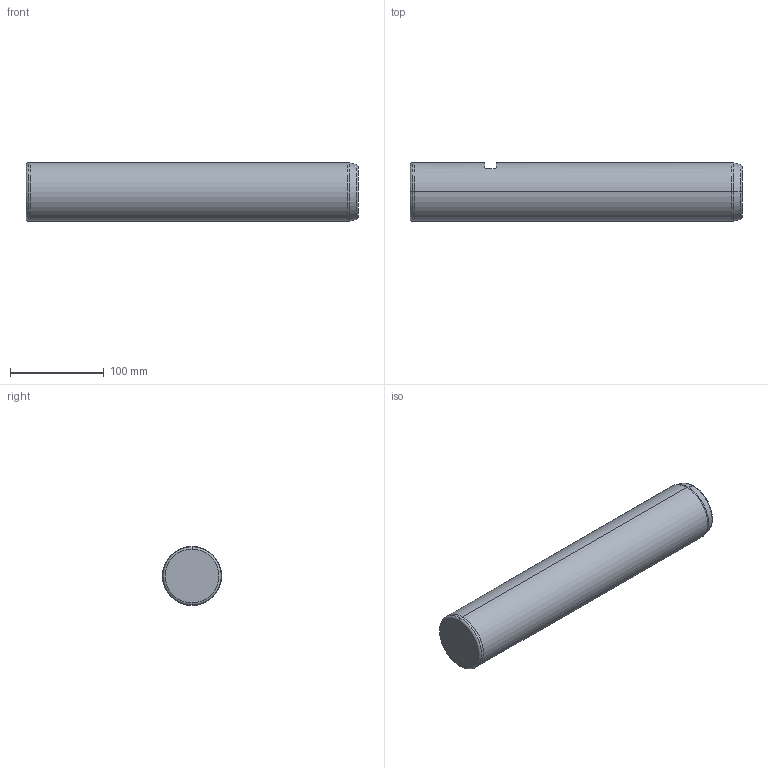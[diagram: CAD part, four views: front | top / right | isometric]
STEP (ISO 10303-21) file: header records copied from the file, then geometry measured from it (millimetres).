
FILE_DESCRIPTION (( 'STEP AP214' ), '1' );
FILE_NAME ('SP202-08-63-355.STEP', '2020-11-03T14:24:03', ( '' ), ( '' ), 'SwSTEP 2.0', 'SolidWorks 2018', '' );
FILE_SCHEMA (( 'AUTOMOTIVE_DESIGN' ));
Length unit declared in the file: millimetre
Products named in the file (1): SP202-08-63-355
Bounding box: 355 x 63 x 63 mm (x, y, z)
Volume: 1097201.8 mm3; surface area: 77137.1 mm2
Topology: 1 solids, 1 shells, 26 faces, 54 edges, 31 vertices
Faces by surface type: cylinder 8, cone 6, torus 6, plane 6
Entity records: 744 total; most frequent: CARTESIAN_POINT 150, DIRECTION 132, ORIENTED_EDGE 104, AXIS2_PLACEMENT_3D 57, EDGE_CURVE 52, VERTEX_POINT 31, CIRCLE 30, EDGE_LOOP 29
